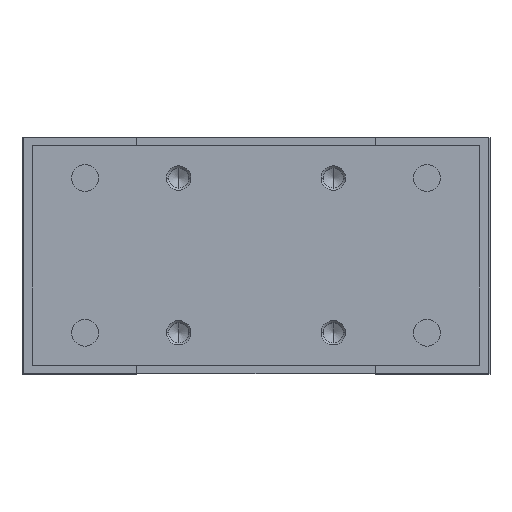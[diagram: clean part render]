
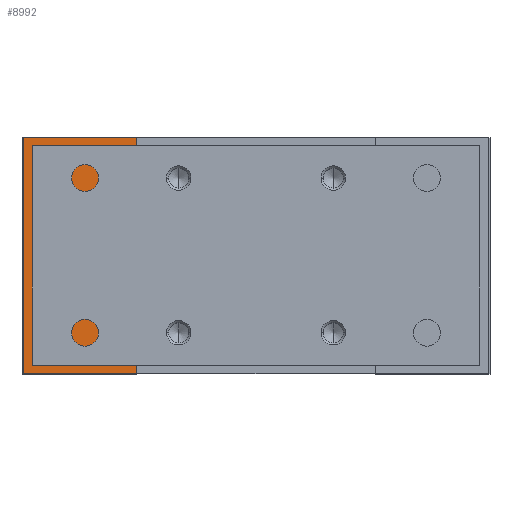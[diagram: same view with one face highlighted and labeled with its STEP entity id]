
A CAD part, top view. The second image highlights one B-rep face of the part: STEP entity #8992.
In plain terms, the highlighted planar face has unit normal (0, 0, 1).
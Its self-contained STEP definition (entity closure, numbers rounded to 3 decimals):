
#316 = CARTESIAN_POINT ( 'NONE',  ( -43.5, 0., 59. ) ) ;
#374 = AXIS2_PLACEMENT_3D ( 'NONE', #316, #7545, #9207 ) ;
#435 = EDGE_CURVE ( 'NONE', #1222, #9279, #8190, .T. ) ;
#915 = DIRECTION ( 'NONE',  ( 0., 0., -1. ) ) ;
#993 = CARTESIAN_POINT ( 'NONE',  ( -43.5, 0., 59. ) ) ;
#1041 = ORIENTED_EDGE ( 'NONE', *, *, #9552, .F. ) ;
#1222 = VERTEX_POINT ( 'NONE', #7595 ) ;
#1443 = VERTEX_POINT ( 'NONE', #9355 ) ;
#1796 = CARTESIAN_POINT ( 'NONE',  ( -57.5, 29., 59. ) ) ;
#2203 = EDGE_CURVE ( 'NONE', #1443, #5129, #5147, .T. ) ;
#2267 = EDGE_LOOP ( 'NONE', ( #4583, #8670 ) ) ;
#2397 = EDGE_CURVE ( 'NONE', #9279, #1222, #9785, .T. ) ;
#2586 = EDGE_CURVE ( 'NONE', #8866, #4517, #8471, .T. ) ;
#3305 = VECTOR ( 'NONE', #4718, 1000. ) ;
#3540 = DIRECTION ( 'NONE',  ( 0., -1., 0. ) ) ;
#3791 = CARTESIAN_POINT ( 'NONE',  ( -57.2, 58., 59. ) ) ;
#3891 = DIRECTION ( 'NONE',  ( 1., 0., 0. ) ) ;
#4074 = DIRECTION ( 'NONE',  ( 0., -1., 0. ) ) ;
#4517 = VERTEX_POINT ( 'NONE', #9654 ) ;
#4551 = CARTESIAN_POINT ( 'NONE',  ( -57.2, 29., 59. ) ) ;
#4583 = ORIENTED_EDGE ( 'NONE', *, *, #2397, .F. ) ;
#4718 = DIRECTION ( 'NONE',  ( 0., -1., 0. ) ) ;
#4942 = DIRECTION ( 'NONE',  ( 0., 0., 1. ) ) ;
#4946 = EDGE_LOOP ( 'NONE', ( #1041, #9421, #5381, #5569 ) ) ;
#4995 = DIRECTION ( 'NONE',  ( 1., 0., 0. ) ) ;
#5129 = VERTEX_POINT ( 'NONE', #6017 ) ;
#5147 = LINE ( 'NONE', #8326, #8960 ) ;
#5279 = DIRECTION ( 'NONE',  ( 1., 0., 0. ) ) ;
#5381 = ORIENTED_EDGE ( 'NONE', *, *, #8080, .T. ) ;
#5459 = VECTOR ( 'NONE', #3891, 1000. ) ;
#5460 = AXIS2_PLACEMENT_3D ( 'NONE', #993, #4942, #4995 ) ;
#5569 = ORIENTED_EDGE ( 'NONE', *, *, #2203, .F. ) ;
#5925 = VECTOR ( 'NONE', #5279, 1000. ) ;
#6017 = CARTESIAN_POINT ( 'NONE',  ( -29.25, -29., 59. ) ) ;
#6062 = LINE ( 'NONE', #10113, #5925 ) ;
#6467 = CARTESIAN_POINT ( 'NONE',  ( -51.5, 0., 59. ) ) ;
#6529 = FACE_BOUND ( 'NONE', #2267, .T. ) ;
#6979 = AXIS2_PLACEMENT_3D ( 'NONE', #1796, #915, #4074 ) ;
#7097 = PLANE ( 'NONE',  #6979 ) ;
#7545 = DIRECTION ( 'NONE',  ( 0., 0., 1. ) ) ;
#7595 = CARTESIAN_POINT ( 'NONE',  ( -35.5, 0., 59. ) ) ;
#8080 = EDGE_CURVE ( 'NONE', #4517, #5129, #6062, .T. ) ;
#8142 = FACE_OUTER_BOUND ( 'NONE', #4946, .T. ) ;
#8190 = CIRCLE ( 'NONE', #374, 8. ) ;
#8326 = CARTESIAN_POINT ( 'NONE',  ( -29.25, 29., 59. ) ) ;
#8471 = LINE ( 'NONE', #3791, #3305 ) ;
#8670 = ORIENTED_EDGE ( 'NONE', *, *, #435, .F. ) ;
#8866 = VERTEX_POINT ( 'NONE', #4551 ) ;
#8960 = VECTOR ( 'NONE', #3540, 1000. ) ;
#8992 = ADVANCED_FACE ( 'NONE', ( #8142, #6529 ), #7097, .F. ) ;
#9207 = DIRECTION ( 'NONE',  ( 1., 0., 0. ) ) ;
#9208 = CARTESIAN_POINT ( 'NONE',  ( -57.5, 29., 59. ) ) ;
#9279 = VERTEX_POINT ( 'NONE', #6467 ) ;
#9355 = CARTESIAN_POINT ( 'NONE',  ( -29.25, 29., 59. ) ) ;
#9421 = ORIENTED_EDGE ( 'NONE', *, *, #2586, .T. ) ;
#9552 = EDGE_CURVE ( 'NONE', #8866, #1443, #10231, .T. ) ;
#9654 = CARTESIAN_POINT ( 'NONE',  ( -57.2, -29., 59. ) ) ;
#9785 = CIRCLE ( 'NONE', #5460, 8. ) ;
#10113 = CARTESIAN_POINT ( 'NONE',  ( -57.5, -29., 59. ) ) ;
#10231 = LINE ( 'NONE', #9208, #5459 ) ;
